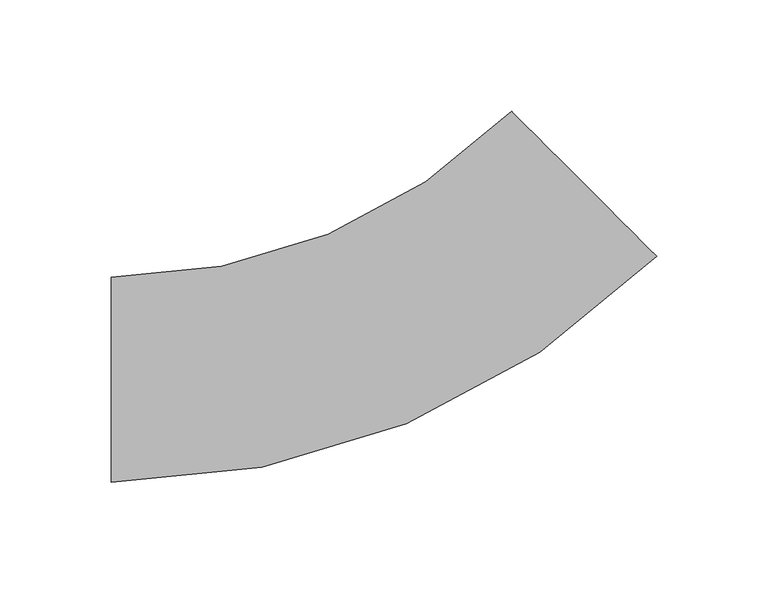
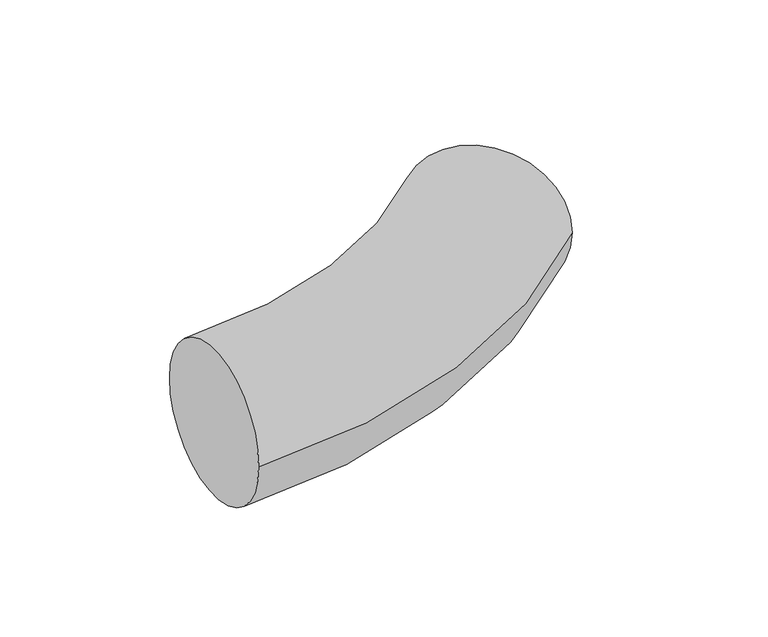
"""IFC4 building model written with IfcOpenShell, lengths in millimetres: duct segment geometry, NLRS_57_DUF_UN_Hybalans flexbend round_M&G : extract ø75 ø92 (red)."""

from ifc_helpers import new_model, si_unit, point, frame, origin, place, context, project, spatial, circle_curve, ellipse_curve, trimmed, source, transform, mapped, element, save
from ifc_brep_helpers import plane_surface, revolved_surface, advanced_brep


def duct_segment_8b9e26e7(model_context):
    return source(origin(), model_context, "Body", "AdvancedBrep", [
        advanced_brep(
        [(-124.2640687, -46.0, 0.0), (-124.2640687, 46.0, 0.0), (120.3948776, 55.3410537, 0.0), (55.3410537, 120.3948776, 0.0)],
        [
            (0, 1, circle_curve(frame((-124.2640687, 0.0, 0.0), z_axis=(-1.0, 0.0, 0.0), x_axis=(0.0, 1.0, 0.0)), 46.0)),
            (1, 0, circle_curve(frame((-124.2640687, 0.0, 0.0), z_axis=(-1.0, 0.0, 0.0), x_axis=(0.0, 1.0, 0.0)), 46.0)),
            (2, 3, circle_curve(frame((87.8679656, 87.8679656, 0.0), z_axis=(0.7071067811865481, 0.7071067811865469, 0.0), x_axis=(-0.7071067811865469, 0.7071067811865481, 0.0)), 46.0)),
            (3, 2, circle_curve(frame((87.8679656, 87.8679656, 0.0), z_axis=(0.7071067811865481, 0.7071067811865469, 0.0), x_axis=(-0.7071067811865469, 0.7071067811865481, 0.0)), 46.0)),
            (3, 1, circle_curve(frame((-124.2640687, 300.0, 0.0), z_axis=(0.0, 0.0, -1.0), x_axis=(0.0, -1.0, 0.0)), 254.0)),
            (0, 2, circle_curve(frame((-124.2640687, 300.0, 0.0), z_axis=(0.0, 0.0, 1.0), x_axis=(0.0, -1.0, 0.0)), 346.0)),
        ],
        [
            plane_surface(frame((-124.2640687, 0.0, 0.0), z_axis=(-1.0, 0.0, 0.0), x_axis=(0.0, 0.0, 1.0))),
            plane_surface(frame((87.8679656, 87.8679656, 0.0), z_axis=(0.7071067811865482, 0.707106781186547, 0.0), x_axis=(0.0, 0.0, 1.0))),
            revolved_surface(trimmed(ellipse_curve(frame((-124.2640687, 0.0, 0.0), z_axis=(-1.0, 0.0, 0.0), x_axis=(0.0, 1.0, 0.0)), 46.0, 46.0), [point((-124.2640687, -46.0, 0.0))], [point((-124.2640687, 46.0, 0.0))], True, "CARTESIAN"), (-124.2640687, 300.0, 0.0), (0.0, 0.0, 1.0)),
            revolved_surface(trimmed(ellipse_curve(frame((-124.2640687, 0.0, 0.0), z_axis=(-1.0, 0.0, 0.0), x_axis=(0.0, 1.0, 0.0)), 46.0, 46.0), [point((-124.2640687, 46.0, 0.0))], [point((-124.2640687, -46.0, 0.0))], True, "CARTESIAN"), (-124.2640687, 300.0, 0.0), (0.0, 0.0, 1.0)),
        ],
        [
            (0, [[1, 2]]),
            (1, [[3, 4]]),
            (2, [[5, -1, 6, -4]]),
            (3, [[-6, -2, -5, -3]]),
        ],
    ),
    ])


if __name__ == "__main__":
    model = new_model("IFC4")
    model_context = context("Model", 3, world=origin())
    ifc_project = project(units=[si_unit("LENGTHUNIT", "METRE", prefix="MILLI")], contexts=[model_context])
    site = spatial("IfcSite", under=ifc_project)
    building = spatial("IfcBuilding", under=site)
    placement = place(None, origin())
    duct_segment_shape = duct_segment_8b9e26e7(model_context)
    element("IfcDuctSegment", 1, ObjectType="NLRS_57_DUF_UN_Hybalans flexbend round_M&G : extract ø75 ø92 (red)", at=placement, inside=building, context=model_context, shape_type="MappedRepresentation", body=[
        mapped(duct_segment_shape, transform((0.0, 0.0, 0.0), x_axis=(1.0, 0.0, 0.0), y_axis=(0.0, 1.0, 0.0), z_axis=(0.0, 0.0, 1.0))),
    ])
    save(model, "model.ifc")
